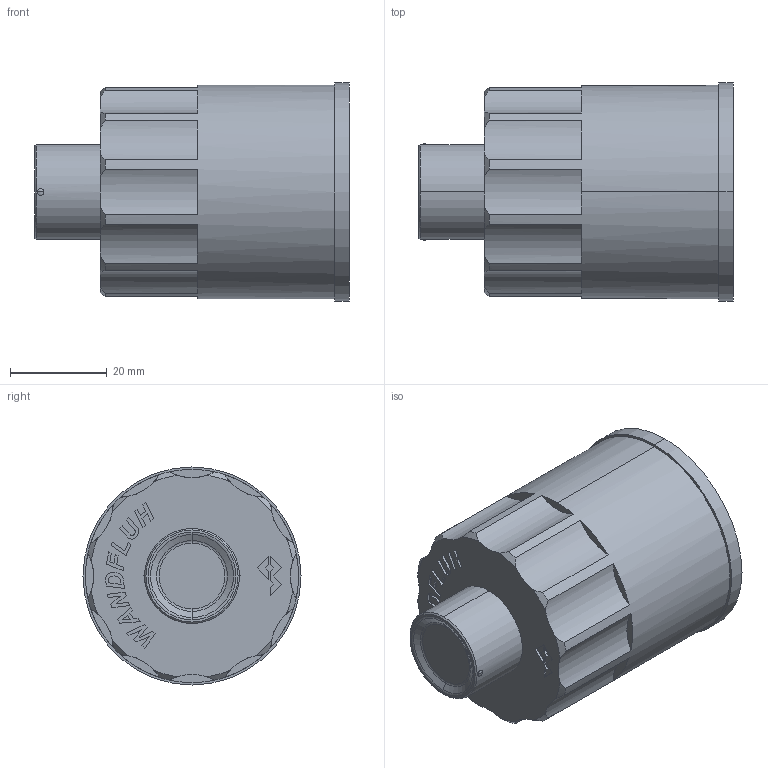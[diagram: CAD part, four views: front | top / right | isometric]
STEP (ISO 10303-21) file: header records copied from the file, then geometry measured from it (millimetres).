
FILE_DESCRIPTION (( 'STEP AP214' ), '1' );
FILE_NAME ('HF1.STEP', '2014-07-14T09:53:21', ( '' ), ( '' ), 'SwSTEP 2.0', 'SolidWorks 2014', '' );
FILE_SCHEMA (( 'AUTOMOTIVE_DESIGN' ));
Length unit declared in the file: millimetre
Products named in the file (2): HF1
Bounding box: 64.9 x 45 x 45 mm (x, y, z)
Volume: 50564.6 mm3; surface area: 16845.9 mm2
Topology: 3 solids, 3 shells, 226 faces, 575 edges, 375 vertices
Faces by surface type: plane 127, cylinder 35, cone 26, bspline 16, torus 14, sphere 8
Entity records: 10188 total; most frequent: CARTESIAN_POINT 2186, ORIENTED_EDGE 1146, DIRECTION 1097, EDGE_CURVE 573, VERTEX_POINT 375, AXIS2_PLACEMENT_3D 372, VECTOR 353, LINE 353
